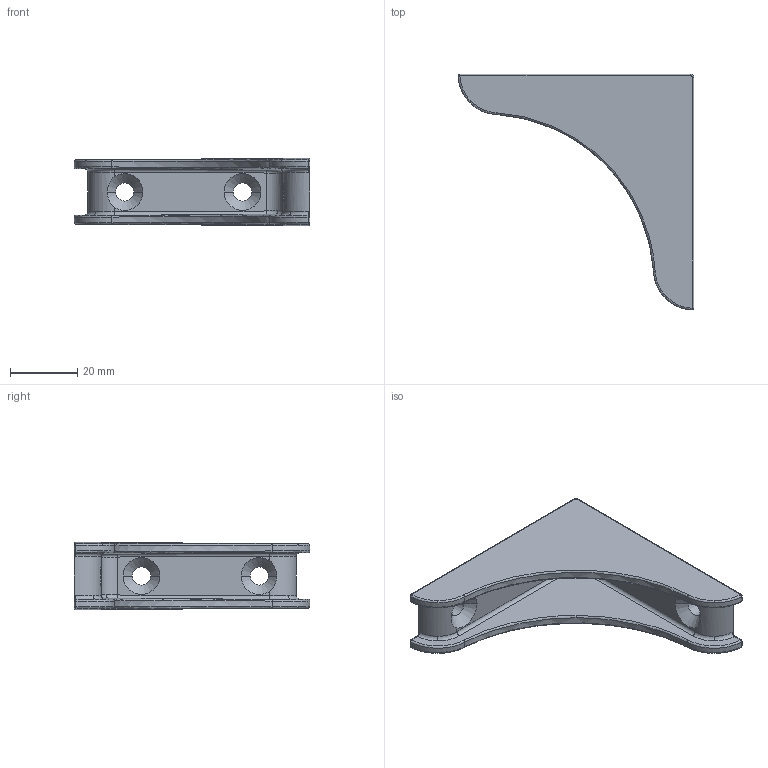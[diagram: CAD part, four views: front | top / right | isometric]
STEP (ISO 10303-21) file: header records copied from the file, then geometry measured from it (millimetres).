
FILE_DESCRIPTION (( 'STEP AP203' ), '1' );
FILE_NAME ('013.100.053.STEP', '2021-07-28T09:43:25', ( '' ), ( '' ), 'SwSTEP 2.0', 'SolidWorks 2018', '' );
FILE_SCHEMA (( 'CONFIG_CONTROL_DESIGN' ));
Length unit declared in the file: millimetre
Products named in the file (1): 013.100.053
Bounding box: 69.99 x 69.99 x 19.98 mm (x, y, z)
Volume: 18355.7 mm3; surface area: 13128.4 mm2
Topology: 1 solids, 1 shells, 135 faces, 348 edges, 211 vertices
Faces by surface type: cylinder 43, bspline 35, cone 24, plane 24, sphere 9
Entity records: 4975 total; most frequent: CARTESIAN_POINT 2002, ORIENTED_EDGE 688, DIRECTION 539, EDGE_CURVE 344, AXIS2_PLACEMENT_3D 212, VERTEX_POINT 209, EDGE_LOOP 141, ADVANCED_FACE 135
